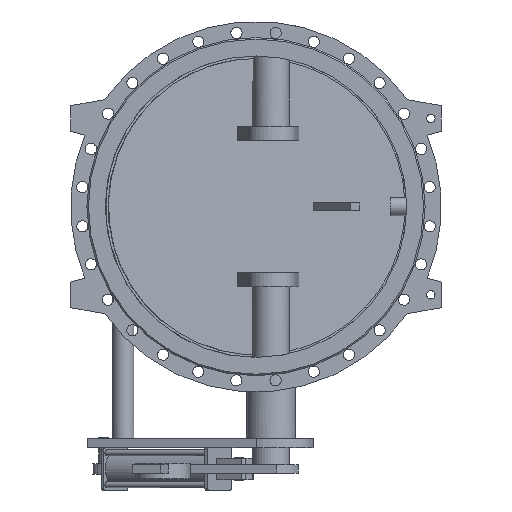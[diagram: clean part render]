
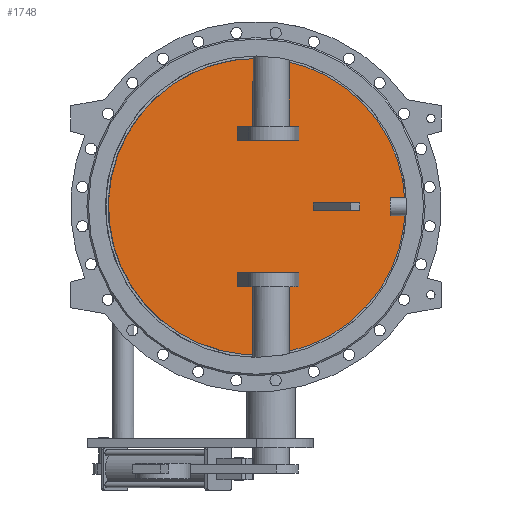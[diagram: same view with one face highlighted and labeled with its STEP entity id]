
A CAD part, front view. The second image highlights one B-rep face of the part: STEP entity #1748.
In plain terms, the highlighted planar face has unit normal (0.131, -0.991, 0).
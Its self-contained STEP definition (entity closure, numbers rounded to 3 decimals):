
#1748=ADVANCED_FACE('',(#3909,#3911,#3913,#3915),#3917,.T.);
#3909=FACE_BOUND('',#3910,.T.);
#3910=EDGE_LOOP('',(#5098));
#3911=FACE_BOUND('',#3912,.T.);
#3912=EDGE_LOOP('',(#5099,#5100,#5101,#5102));
#3913=FACE_BOUND('',#3914,.T.);
#3914=EDGE_LOOP('',(#5103,#5104,#5105,#5106));
#3915=FACE_BOUND('',#3916,.T.);
#3916=EDGE_LOOP('',(#5107,#5108,#5109,#5110));
#3917=PLANE('',#3918);
#3918=AXIS2_PLACEMENT_3D('',#3919,#3920,#3921);
#3919=CARTESIAN_POINT('',(-1.272,9.66,0.));
#3920=DIRECTION('',(0.131,-0.991,0.));
#3921=DIRECTION('',(0.,0.,-1.));
#5098=ORIENTED_EDGE('',*,*,#5631,.T.);
#5099=ORIENTED_EDGE('',*,*,#5648,.F.);
#5100=ORIENTED_EDGE('',*,*,#5649,.F.);
#5101=ORIENTED_EDGE('',*,*,#5650,.F.);
#5102=ORIENTED_EDGE('',*,*,#5651,.F.);
#5103=ORIENTED_EDGE('',*,*,#5652,.F.);
#5104=ORIENTED_EDGE('',*,*,#5653,.F.);
#5105=ORIENTED_EDGE('',*,*,#5654,.F.);
#5106=ORIENTED_EDGE('',*,*,#5655,.F.);
#5107=ORIENTED_EDGE('',*,*,#5656,.F.);
#5108=ORIENTED_EDGE('',*,*,#5657,.F.);
#5109=ORIENTED_EDGE('',*,*,#5658,.F.);
#5110=ORIENTED_EDGE('',*,*,#5659,.F.);
#5631=EDGE_CURVE('',#6439,#6439,#6440,.T.);
#5648=EDGE_CURVE('',#6473,#6474,#6475,.T.);
#5649=EDGE_CURVE('',#6476,#6473,#6477,.F.);
#5650=EDGE_CURVE('',#6478,#6476,#6479,.T.);
#5651=EDGE_CURVE('',#6474,#6478,#6480,.T.);
#5652=EDGE_CURVE('',#6481,#6482,#6483,.F.);
#5653=EDGE_CURVE('',#6484,#6481,#6485,.T.);
#5654=EDGE_CURVE('',#6486,#6484,#6487,.T.);
#5655=EDGE_CURVE('',#6482,#6486,#6488,.T.);
#5656=EDGE_CURVE('',#6489,#6490,#6491,.T.);
#5657=EDGE_CURVE('',#6492,#6489,#6493,.F.);
#5658=EDGE_CURVE('',#6494,#6492,#6495,.F.);
#5659=EDGE_CURVE('',#6490,#6494,#6496,.F.);
#6439=VERTEX_POINT('',#9688);
#6440=B_SPLINE_CURVE_WITH_KNOTS('',3,
(#9689,#9690,#9691,#9692,#9693,#9694,#9695,#9696,#9697,#9698,#9699,#9700,#9701,#9702,
#9703,#9704,#9705,#9706,#9707,#9708,#9709,#9710,#9711,#9712,#9713,#9714,#9715,#9716,
#9717,#9718,#9719,#9720,#9721,#9722,#9723,#9724,#9725,#9726,#9727,#9728,#9729,#9730,
#9731,#9732,#9733,#9734,#9735,#9736,#9737,#9738,#9739),
.UNSPECIFIED.,.T.,.F.,
(4,1,1,1,1,1,1,1,1,1,1,1,1,1,1,1,1,1,1,1,1,1,1,1,1,1,1,1,1,1,1,1,1,1,1,1,1,1,1,1,
1,1,1,1,1,1,1,1,4),
(0.,0.021,0.042,0.063,0.084,
0.105,0.126,0.147,0.168,0.189,
0.211,0.232,0.253,0.274,0.295,
0.316,0.337,0.358,0.379,0.4,
0.421,0.442,0.463,0.484,0.505,
0.527,0.548,0.569,0.59,0.611,
0.632,0.653,0.674,0.695,0.716,
0.737,0.758,0.779,0.8,0.821,
0.842,0.864,0.885,0.906,0.927,
0.948,0.969,0.986,1.),
.UNSPECIFIED.);
#6473=VERTEX_POINT('',#10171);
#6474=VERTEX_POINT('',#10172);
#6475=LINE('',#10173,#10174);
#6476=VERTEX_POINT('',#10176);
#6477=LINE('',#10177,#10178);
#6478=VERTEX_POINT('',#10180);
#6479=LINE('',#10181,#10182);
#6480=LINE('',#10184,#10185);
#6481=VERTEX_POINT('',#10187);
#6482=VERTEX_POINT('',#10188);
#6483=LINE('',#10189,#10190);
#6484=VERTEX_POINT('',#10192);
#6485=LINE('',#10193,#10194);
#6486=VERTEX_POINT('',#10196);
#6487=LINE('',#10197,#10198);
#6488=LINE('',#10200,#10201);
#6489=VERTEX_POINT('',#10203);
#6490=VERTEX_POINT('',#10204);
#6491=LINE('',#10205,#10206);
#6492=VERTEX_POINT('',#10208);
#6493=LINE('',#10209,#10210);
#6494=VERTEX_POINT('',#10212);
#6495=LINE('',#10213,#10214);
#6496=LINE('',#10216,#10217);
#9688=CARTESIAN_POINT('',(2.611,10.171,492.));
#9689=CARTESIAN_POINT('',(2.611,10.171,492.));
#9690=CARTESIAN_POINT('',(-19.012,7.324,492.));
#9691=CARTESIAN_POINT('',(-62.309,1.624,489.142));
#9692=CARTESIAN_POINT('',(-126.205,-6.788,476.332));
#9693=CARTESIAN_POINT('',(-187.936,-14.915,455.176));
#9694=CARTESIAN_POINT('',(-246.369,-22.608,426.038));
#9695=CARTESIAN_POINT('',(-300.428,-29.725,389.455));
#9696=CARTESIAN_POINT('',(-349.181,-36.143,346.062));
#9697=CARTESIAN_POINT('',(-391.774,-41.751,296.622));
#9698=CARTESIAN_POINT('',(-427.467,-46.45,242.002));
#9699=CARTESIAN_POINT('',(-455.638,-50.159,183.158));
#9700=CARTESIAN_POINT('',(-475.798,-52.813,121.116));
#9701=CARTESIAN_POINT('',(-487.596,-54.366,56.961));
#9702=CARTESIAN_POINT('',(-490.827,-54.791,-8.188));
#9703=CARTESIAN_POINT('',(-485.436,-54.081,-73.196));
#9704=CARTESIAN_POINT('',(-471.514,-52.249,-136.927));
#9705=CARTESIAN_POINT('',(-449.304,-49.325,-198.269));
#9706=CARTESIAN_POINT('',(-419.191,-45.36,-256.152));
#9707=CARTESIAN_POINT('',(-381.699,-40.424,-309.562));
#9708=CARTESIAN_POINT('',(-337.48,-34.603,-357.565));
#9709=CARTESIAN_POINT('',(-287.304,-27.997,-399.319));
#9710=CARTESIAN_POINT('',(-232.047,-20.722,-434.089));
#9711=CARTESIAN_POINT('',(-172.677,-12.906,-461.265));
#9712=CARTESIAN_POINT('',(-110.233,-4.685,-480.368));
#9713=CARTESIAN_POINT('',(-45.809,3.797,-491.059));
#9714=CARTESIAN_POINT('',(19.464,12.39,-493.152));
#9715=CARTESIAN_POINT('',(84.44,20.944,-486.61));
#9716=CARTESIAN_POINT('',(147.979,29.309,-471.547));
#9717=CARTESIAN_POINT('',(208.967,37.338,-448.231));
#9718=CARTESIAN_POINT('',(266.336,44.891,-417.073));
#9719=CARTESIAN_POINT('',(319.083,51.836,-378.622));
#9720=CARTESIAN_POINT('',(366.287,58.05,-333.553));
#9721=CARTESIAN_POINT('',(407.125,63.426,-282.656));
#9722=CARTESIAN_POINT('',(440.885,67.871,-226.824));
#9723=CARTESIAN_POINT('',(466.982,71.307,-167.032));
#9724=CARTESIAN_POINT('',(484.96,73.674,-104.325));
#9725=CARTESIAN_POINT('',(494.509,74.931,-39.798));
#9726=CARTESIAN_POINT('',(495.461,75.056,25.425));
#9727=CARTESIAN_POINT('',(487.8,74.048,90.205));
#9728=CARTESIAN_POINT('',(471.659,71.923,153.412));
#9729=CARTESIAN_POINT('',(447.318,68.718,213.942));
#9730=CARTESIAN_POINT('',(415.199,64.489,270.739));
#9731=CARTESIAN_POINT('',(375.861,59.31,322.807));
#9732=CARTESIAN_POINT('',(329.986,53.271,369.238));
#9733=CARTESIAN_POINT('',(278.391,46.478,409.203));
#9734=CARTESIAN_POINT('',(222.038,39.059,441.974));
#9735=CARTESIAN_POINT('',(161.743,31.121,467.086));
#9736=CARTESIAN_POINT('',(102.274,23.292,483.041));
#9737=CARTESIAN_POINT('',(48.806,16.253,490.619));
#9738=CARTESIAN_POINT('',(16.729,12.03,492.));
#9739=CARTESIAN_POINT('',(2.611,10.171,492.));
#10171=CARTESIAN_POINT('',(318.888,51.81,-12.5));
#10172=CARTESIAN_POINT('',(318.888,51.81,12.5));
#10173=CARTESIAN_POINT('',(318.888,51.81,-12.5));
#10174=VECTOR('',#10175,1.);
#10175=DIRECTION('',(0.,0.,1.));
#10176=CARTESIAN_POINT('',(190.,34.841,-12.5));
#10177=CARTESIAN_POINT('',(318.888,51.81,-12.5));
#10178=VECTOR('',#10179,1.);
#10179=DIRECTION('',(-0.991,-0.131,0.));
#10180=CARTESIAN_POINT('',(190.,34.841,12.5));
#10181=CARTESIAN_POINT('',(190.,34.841,12.5));
#10182=VECTOR('',#10183,1.);
#10183=DIRECTION('',(0.,0.,-1.));
#10184=CARTESIAN_POINT('',(318.888,51.81,12.5));
#10185=VECTOR('',#10186,1.);
#10186=DIRECTION('',(-0.991,-0.131,0.));
#10187=CARTESIAN_POINT('',(-62.127,1.648,-265.));
#10188=CARTESIAN_POINT('',(142.351,28.568,-265.));
#10189=CARTESIAN_POINT('',(142.351,28.568,-265.));
#10190=VECTOR('',#10191,1.);
#10191=DIRECTION('',(-0.991,-0.131,0.));
#10192=CARTESIAN_POINT('',(-62.127,1.648,-220.));
#10193=CARTESIAN_POINT('',(-62.127,1.648,-220.));
#10194=VECTOR('',#10195,1.);
#10195=DIRECTION('',(0.,0.,-1.));
#10196=CARTESIAN_POINT('',(142.351,28.568,-220.));
#10197=CARTESIAN_POINT('',(142.351,28.568,-220.));
#10198=VECTOR('',#10199,1.);
#10199=DIRECTION('',(-0.991,-0.131,0.));
#10200=CARTESIAN_POINT('',(142.351,28.568,-265.));
#10201=VECTOR('',#10202,1.);
#10202=DIRECTION('',(0.,0.,1.));
#10203=CARTESIAN_POINT('',(142.351,28.568,265.));
#10204=CARTESIAN_POINT('',(-62.127,1.648,265.));
#10205=CARTESIAN_POINT('',(142.351,28.568,265.));
#10206=VECTOR('',#10207,1.);
#10207=DIRECTION('',(-0.991,-0.131,0.));
#10208=CARTESIAN_POINT('',(142.351,28.568,220.));
#10209=CARTESIAN_POINT('',(142.351,28.568,265.));
#10210=VECTOR('',#10211,1.);
#10211=DIRECTION('',(0.,0.,-1.));
#10212=CARTESIAN_POINT('',(-62.127,1.648,220.));
#10213=CARTESIAN_POINT('',(142.351,28.568,220.));
#10214=VECTOR('',#10215,1.);
#10215=DIRECTION('',(-0.991,-0.131,0.));
#10216=CARTESIAN_POINT('',(-62.127,1.648,220.));
#10217=VECTOR('',#10218,1.);
#10218=DIRECTION('',(0.,0.,1.));
